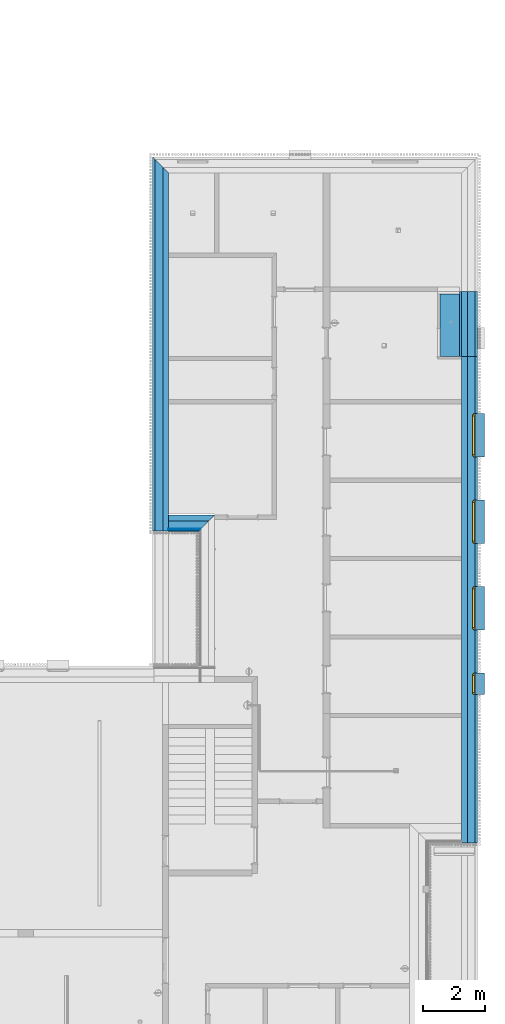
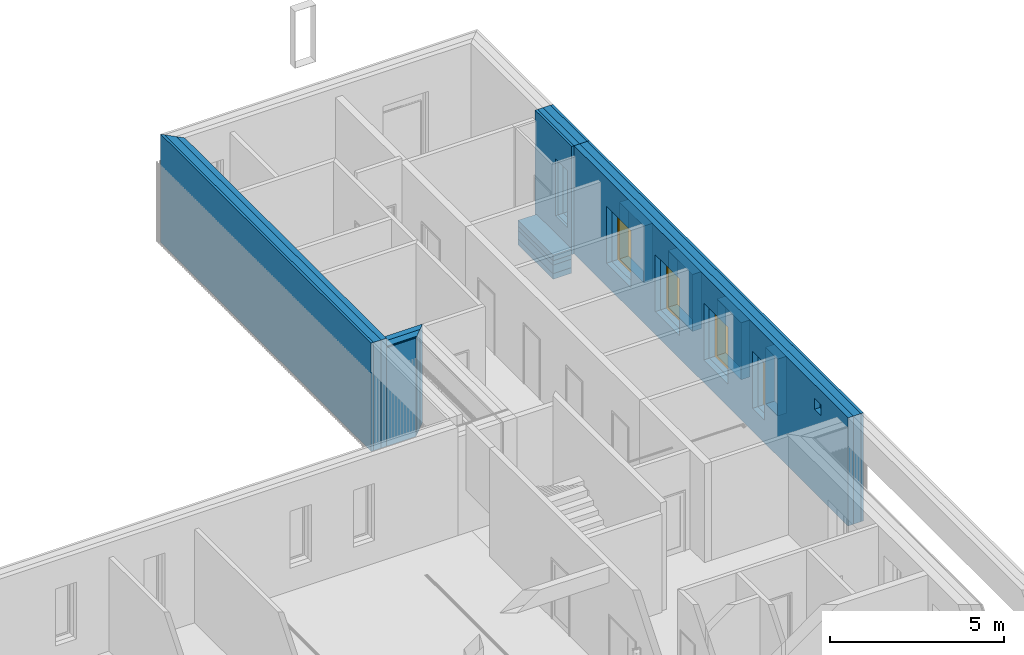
# One storey, part 34 of 112: 18 building element parts, 4 discrete accessories, 4 windows, 6 openings, 5 elements without a shape of their own.
"""IFC2X3 building model written with IfcOpenShell, lengths in millimetres."""

from ifc_helpers import new_model, entity, si_unit, converted_unit, derived_unit, money_unit, direction, frame, origin_with_axes, origin_2d_with_axis, place, context, subcontext, project, spatial, polyline, rectangle, outline, extrude, open_shell, faceted_brep, surface_model, source, transform, mapped, material, type_object, element, fill, aggregate, save


model = new_model("IFC2X3")

# Units and contexts
model_context = context("Model", 3, precision=0.01, world=origin_with_axes(), true_north=direction((0.0, 1.0)))
body_context = subcontext(model_context, "Body", "Model", "MODEL_VIEW")
ifc_project = project(units=[si_unit("LENGTHUNIT", "METRE", prefix="MILLI"), si_unit("AREAUNIT", "SQUARE_METRE"), si_unit("VOLUMEUNIT", "CUBIC_METRE"), converted_unit("PLANEANGLEUNIT", "DEGREE", entity("IfcPlaneAngleMeasure", 0.0174532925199), si_unit("PLANEANGLEUNIT", "RADIAN"), dimensions=[0, 0, 0, 0, 0, 0, 0]), si_unit("SOLIDANGLEUNIT", "STERADIAN"), money_unit("EUR"), converted_unit("TIMEUNIT", "Year", entity("IfcTimeMeasure", 31556926.0), si_unit("TIMEUNIT", "SECOND"), dimensions=[0, 0, 1, 0, 0, 0, 0]), si_unit("MASSUNIT", "GRAM", prefix="KILO"), si_unit("THERMODYNAMICTEMPERATUREUNIT", "DEGREE_CELSIUS"), si_unit("LUMINOUSINTENSITYUNIT", "LUMEN"), si_unit("ENERGYUNIT", "JOULE", prefix="MEGA"), derived_unit("THERMALCONDUCTANCEUNIT", [(si_unit("POWERUNIT", "WATT"), 1), (si_unit("LENGTHUNIT", "METRE"), -1), (si_unit("THERMODYNAMICTEMPERATUREUNIT", "KELVIN"), -1)]), derived_unit("SPECIFICHEATCAPACITYUNIT", [(si_unit("ENERGYUNIT", "JOULE"), 1), (si_unit("MASSUNIT", "GRAM", prefix="KILO"), -1), (si_unit("THERMODYNAMICTEMPERATUREUNIT", "KELVIN"), -1)]), derived_unit("MASSDENSITYUNIT", [(si_unit("MASSUNIT", "GRAM", prefix="KILO"), 1), (si_unit("VOLUMEUNIT", "CUBIC_METRE"), -1)])], contexts=[model_context])

# Site, building, storey
site_placement = place(None, origin_with_axes())
site = spatial("IfcSite", under=ifc_project, at=site_placement, Name="Politse- ja Piirivalveameti ning Päästeameti ühishoone", CompositionType="ELEMENT")
building_placement = place(site_placement, origin_with_axes())
building = spatial("IfcBuilding", under=site, at=building_placement, Name="Politse- ja Piirivalveameti ning Päästeameti ühishoone", CompositionType="ELEMENT")
storey_placement = place(building_placement, origin_with_axes())
storey = spatial("IfcBuildingStorey", under=building, at=storey_placement, Name="Esimene korrus", CompositionType="ELEMENT", Elevation=0.0)

# Window
window_style_1 = type_object("IfcWindowStyle", Name="Window 23", ConstructionType="NOTDEFINED", OperationType="SINGLE_PANEL", ParameterTakesPrecedence=False, Sizeable=False)
shared_shape_1 = source(origin_with_axes(), body_context, "Body", "SurfaceModel", [
    faceted_brep([(675.0, 0.0, 1950.0), (675.0, -25.0, 1950.0), (650.0, -25.0, 1950.0), (650.0, -50.0, 1950.0), (700.0, -50.0, 1950.0), (700.0, 0.0, 1950.0), (675.0, 0.0, 50.0), (675.0, -25.0, 50.0), (650.0, -25.0, 50.0), (650.0, -50.0, 50.0), (700.0, -50.0, 50.0), (700.0, 0.0, 50.0)], [[[0, 1, 2, 3, 4, 5]], [[1, 0, 6, 7]], [[8, 2, 1, 7]], [[2, 8, 9, 3]], [[4, 3, 9, 10]], [[5, 4, 10, 11]], [[6, 0, 5, 11]], [[7, 6, 11, 10, 9, 8]]]),
    faceted_brep([(-650.0, -25.0, 1950.0), (-675.0, -25.0, 1950.0), (-675.0, 0.0, 1950.0), (-700.0, 0.0, 1950.0), (-700.0, -50.0, 1950.0), (-650.0, -50.0, 1950.0), (-650.0, -25.0, 50.0), (-675.0, -25.0, 50.0), (-675.0, 0.0, 50.0), (-700.0, 0.0, 50.0), (-700.0, -50.0, 50.0), (-650.0, -50.0, 50.0)], [[[0, 1, 2, 3, 4, 5]], [[1, 0, 6, 7]], [[8, 2, 1, 7]], [[2, 8, 9, 3]], [[9, 10, 4, 3]], [[10, 11, 5, 4]], [[6, 0, 5, 11]], [[7, 6, 11, 10, 9, 8]]]),
    faceted_brep([(-650.0, -25.0, 50.0), (-675.0, -25.0, 50.0), (-675.0, 0.0, 50.0), (-700.0, 0.0, 50.0), (-700.0, -50.0, 50.0), (-650.0, -50.0, 50.0), (650.0, -25.0, 50.0), (675.0, -25.0, 50.0), (675.0, -25.0, 25.0), (-675.0, -25.0, 25.0), (-675.0, 0.0, 25.0), (675.0, 0.0, 25.0), (675.0, 0.0, 50.0), (700.0, 0.0, 50.0), (700.0, 0.0, 0.0), (-700.0, 0.0, 0.0), (-700.0, -50.0, 0.0), (700.0, -50.0, 50.0), (650.0, -50.0, 50.0), (700.0, -50.0, 0.0)], [[[0, 1, 2, 3, 4, 5]], [[1, 0, 6, 7, 8, 9]], [[10, 2, 1, 9]], [[11, 12, 13, 14, 15, 3, 2, 10]], [[15, 16, 4, 3]], [[17, 18, 5, 4, 16, 19]], [[6, 0, 5, 18]], [[7, 6, 18, 17, 13, 12]], [[7, 12, 11, 8]], [[11, 10, 9, 8]], [[13, 17, 19, 14]], [[14, 19, 16, 15]]]),
    faceted_brep([(675.0, 0.0, 1950.0), (675.0, 0.0, 1975.0), (-675.0, 0.0, 1975.0), (-675.0, 0.0, 1950.0), (-700.0, 0.0, 1950.0), (-700.0, 0.0, 2000.0), (700.0, 0.0, 2000.0), (700.0, 0.0, 1950.0), (675.0, -25.0, 1950.0), (675.0, -25.0, 1975.0), (-675.0, -25.0, 1975.0), (-675.0, -25.0, 1950.0), (-650.0, -25.0, 1950.0), (-650.0, -50.0, 1950.0), (-700.0, -50.0, 1950.0), (-700.0, -50.0, 2000.0), (700.0, -50.0, 2000.0), (700.0, -50.0, 1950.0), (650.0, -50.0, 1950.0), (650.0, -25.0, 1950.0)], [[[0, 1, 2, 3, 4, 5, 6, 7]], [[1, 0, 8, 9]], [[2, 1, 9, 10]], [[3, 2, 10, 11]], [[11, 12, 13, 14, 4, 3]], [[4, 14, 15, 5]], [[5, 15, 16, 6]], [[6, 16, 17, 7]], [[8, 0, 7, 17, 18, 19]], [[12, 11, 10, 9, 8, 19]], [[12, 19, 18, 13]], [[14, 13, 18, 17, 16, 15]]]),
    faceted_brep([(625.0, -25.0, 1925.0), (675.0, -25.0, 1925.0), (675.0, 25.0, 1925.0), (625.0, 25.0, 1925.0), (625.0, -25.0, 75.0), (675.0, -25.0, 75.0), (675.0, 25.0, 75.0), (625.0, 25.0, 75.0)], [[[0, 1, 2, 3]], [[0, 4, 5, 1]], [[1, 5, 6, 2]], [[3, 2, 6, 7]], [[4, 0, 3, 7]], [[5, 4, 7, 6]]]),
    faceted_brep([(-625.0, -25.0, 75.0), (-675.0, -25.0, 75.0), (-675.0, 25.0, 75.0), (-625.0, 25.0, 75.0), (-625.0, -25.0, 1925.0), (-675.0, -25.0, 1925.0), (-675.0, 25.0, 1925.0), (-625.0, 25.0, 1925.0)], [[[0, 1, 2, 3]], [[0, 4, 5, 1]], [[1, 5, 6, 2]], [[3, 2, 6, 7]], [[4, 0, 3, 7]], [[5, 4, 7, 6]]]),
    faceted_brep([(-675.0, -25.0, 25.0), (-675.0, -25.0, 75.0), (-675.0, 25.0, 75.0), (-675.0, 25.0, 25.0), (675.0, -25.0, 25.0), (675.0, -25.0, 75.0), (625.0, -25.0, 75.0), (-625.0, -25.0, 75.0), (-625.0, 25.0, 75.0), (625.0, 25.0, 75.0), (675.0, 25.0, 75.0), (675.0, 25.0, 25.0)], [[[0, 1, 2, 3]], [[0, 4, 5, 6, 7, 1]], [[1, 7, 8, 2]], [[3, 2, 8, 9, 10, 11]], [[4, 0, 3, 11]], [[5, 4, 11, 10]], [[6, 5, 10, 9]], [[7, 6, 9, 8]]]),
    faceted_brep([(675.0, -25.0, 1975.0), (675.0, -25.0, 1925.0), (675.0, 25.0, 1925.0), (675.0, 25.0, 1975.0), (-675.0, -25.0, 1975.0), (-675.0, -25.0, 1925.0), (-625.0, -25.0, 1925.0), (625.0, -25.0, 1925.0), (625.0, 25.0, 1925.0), (-625.0, 25.0, 1925.0), (-675.0, 25.0, 1925.0), (-675.0, 25.0, 1975.0)], [[[0, 1, 2, 3]], [[0, 4, 5, 6, 7, 1]], [[1, 7, 8, 2]], [[3, 2, 8, 9, 10, 11]], [[4, 0, 3, 11]], [[5, 4, 11, 10]], [[6, 5, 10, 9]], [[7, 6, 9, 8]]]),
    surface_model("IfcShellBasedSurfaceModel", [(625.0, -10.0, 75.0), (625.0, -10.0, 1925.0), (-625.0, -10.0, 1925.0), (-625.0, -10.0, 75.0)], [open_shell([[[0, 1, 2, 3]]])]),
    surface_model("IfcShellBasedSurfaceModel", [(625.0, 10.0, 75.0), (-625.0, 10.0, 75.0), (-625.0, 10.0, 1925.0), (625.0, 10.0, 1925.0)], [open_shell([[[0, 1, 2, 3]]])]),
])
wall_4_placement = place(storey_placement, frame((69660.5664257, 31560.1986087, 0.0), z_axis=(0.0, 0.0, 1.0), x_axis=(0.0, -1.0, 0.0)))
opening_2_placement = place(wall_4_placement, frame((8160.12836457, 0.0, 800.0), z_axis=(0.0, 0.0, 1.0), x_axis=(1.0, 0.0, 0.0)))
window_1_placement = place(opening_2_placement, frame((700.0, 0.0, 0.0), z_axis=(0.0, 0.0, 1.0), x_axis=(-1.0, 0.0, 0.0)))
window_1 = element("IfcWindow", 1, at=window_1_placement, inside=storey, type_object=window_style_1, Name="A-02", ObjectType="WINDOW", OverallHeight=2000.0, OverallWidth=1400.0, context=body_context, shape_type="MappedRepresentation", body=[
    mapped(shared_shape_1, transform((700.0, -380.0, 0.0))),
])

opening_3_placement = place(wall_4_placement, frame((5360.12836457, 0.0, 800.0), z_axis=(0.0, 0.0, 1.0), x_axis=(1.0, 0.0, 0.0)))
window_2_placement = place(opening_3_placement, frame((700.0, 0.0, 0.0), z_axis=(0.0, 0.0, 1.0), x_axis=(-1.0, 0.0, 0.0)))
window_2 = element("IfcWindow", 2, at=window_2_placement, inside=storey, type_object=window_style_1, Name="A-02", ObjectType="WINDOW", OverallHeight=2000.0, OverallWidth=1400.0, context=body_context, shape_type="MappedRepresentation", body=[
    mapped(shared_shape_1, transform((700.0, -380.0, 0.0))),
])

opening_5_placement = place(wall_4_placement, frame((2560.12836457, 0.0, 800.0), z_axis=(0.0, 0.0, 1.0), x_axis=(1.0, 0.0, 0.0)))
window_3_placement = place(opening_5_placement, frame((700.0, 0.0, 0.0), z_axis=(0.0, 0.0, 1.0), x_axis=(-1.0, 0.0, 0.0)))
window_3 = element("IfcWindow", 3, at=window_3_placement, inside=storey, type_object=window_style_1, Name="A-02", ObjectType="WINDOW", OverallHeight=2000.0, OverallWidth=1400.0, context=body_context, shape_type="MappedRepresentation", body=[
    mapped(shared_shape_1, transform((700.0, -380.0, 0.0))),
])

window_style_2 = type_object("IfcWindowStyle", Name="Window 23", ConstructionType="NOTDEFINED", OperationType="SINGLE_PANEL", ParameterTakesPrecedence=False, Sizeable=False)
shared_shape_2 = source(origin_with_axes(), body_context, "Body", "SurfaceModel", [
    faceted_brep([(325.0, 0.0, 1950.0), (325.0, -25.0, 1950.0), (300.0, -25.0, 1950.0), (300.0, -50.0, 1950.0), (350.0, -50.0, 1950.0), (350.0, 0.0, 1950.0), (325.0, 0.0, 50.0), (325.0, -25.0, 50.0), (300.0, -25.0, 50.0), (300.0, -50.0, 50.0), (350.0, -50.0, 50.0), (350.0, 0.0, 50.0)], [[[0, 1, 2, 3, 4, 5]], [[1, 0, 6, 7]], [[8, 2, 1, 7]], [[2, 8, 9, 3]], [[4, 3, 9, 10]], [[5, 4, 10, 11]], [[6, 0, 5, 11]], [[7, 6, 11, 10, 9, 8]]]),
    faceted_brep([(-300.0, -25.0, 1950.0), (-325.0, -25.0, 1950.0), (-325.0, 0.0, 1950.0), (-350.0, 0.0, 1950.0), (-350.0, -50.0, 1950.0), (-300.0, -50.0, 1950.0), (-300.0, -25.0, 50.0), (-325.0, -25.0, 50.0), (-325.0, 0.0, 50.0), (-350.0, 0.0, 50.0), (-350.0, -50.0, 50.0), (-300.0, -50.0, 50.0)], [[[0, 1, 2, 3, 4, 5]], [[1, 0, 6, 7]], [[8, 2, 1, 7]], [[2, 8, 9, 3]], [[9, 10, 4, 3]], [[10, 11, 5, 4]], [[6, 0, 5, 11]], [[7, 6, 11, 10, 9, 8]]]),
    faceted_brep([(-300.0, -25.0, 50.0), (-325.0, -25.0, 50.0), (-325.0, 0.0, 50.0), (-350.0, 0.0, 50.0), (-350.0, -50.0, 50.0), (-300.0, -50.0, 50.0), (300.0, -25.0, 50.0), (325.0, -25.0, 50.0), (325.0, -25.0, 25.0), (-325.0, -25.0, 25.0), (-325.0, 0.0, 25.0), (325.0, 0.0, 25.0), (325.0, 0.0, 50.0), (350.0, 0.0, 50.0), (350.0, 0.0, 0.0), (-350.0, 0.0, 0.0), (-350.0, -50.0, 0.0), (350.0, -50.0, 50.0), (300.0, -50.0, 50.0), (350.0, -50.0, 0.0)], [[[0, 1, 2, 3, 4, 5]], [[1, 0, 6, 7, 8, 9]], [[10, 2, 1, 9]], [[11, 12, 13, 14, 15, 3, 2, 10]], [[15, 16, 4, 3]], [[17, 18, 5, 4, 16, 19]], [[6, 0, 5, 18]], [[7, 6, 18, 17, 13, 12]], [[7, 12, 11, 8]], [[11, 10, 9, 8]], [[13, 17, 19, 14]], [[14, 19, 16, 15]]]),
    faceted_brep([(325.0, 0.0, 1950.0), (325.0, 0.0, 1975.0), (-325.0, 0.0, 1975.0), (-325.0, 0.0, 1950.0), (-350.0, 0.0, 1950.0), (-350.0, 0.0, 2000.0), (350.0, 0.0, 2000.0), (350.0, 0.0, 1950.0), (325.0, -25.0, 1950.0), (325.0, -25.0, 1975.0), (-325.0, -25.0, 1975.0), (-325.0, -25.0, 1950.0), (-300.0, -25.0, 1950.0), (-300.0, -50.0, 1950.0), (-350.0, -50.0, 1950.0), (-350.0, -50.0, 2000.0), (350.0, -50.0, 2000.0), (350.0, -50.0, 1950.0), (300.0, -50.0, 1950.0), (300.0, -25.0, 1950.0)], [[[0, 1, 2, 3, 4, 5, 6, 7]], [[1, 0, 8, 9]], [[2, 1, 9, 10]], [[3, 2, 10, 11]], [[11, 12, 13, 14, 4, 3]], [[4, 14, 15, 5]], [[5, 15, 16, 6]], [[6, 16, 17, 7]], [[8, 0, 7, 17, 18, 19]], [[12, 11, 10, 9, 8, 19]], [[12, 19, 18, 13]], [[14, 13, 18, 17, 16, 15]]]),
    faceted_brep([(275.0, -25.0, 1925.0), (325.0, -25.0, 1925.0), (325.0, 25.0, 1925.0), (275.0, 25.0, 1925.0), (275.0, -25.0, 75.0), (325.0, -25.0, 75.0), (325.0, 25.0, 75.0), (275.0, 25.0, 75.0)], [[[0, 1, 2, 3]], [[0, 4, 5, 1]], [[1, 5, 6, 2]], [[3, 2, 6, 7]], [[4, 0, 3, 7]], [[5, 4, 7, 6]]]),
    faceted_brep([(-275.0, -25.0, 75.0), (-325.0, -25.0, 75.0), (-325.0, 25.0, 75.0), (-275.0, 25.0, 75.0), (-275.0, -25.0, 1925.0), (-325.0, -25.0, 1925.0), (-325.0, 25.0, 1925.0), (-275.0, 25.0, 1925.0)], [[[0, 1, 2, 3]], [[0, 4, 5, 1]], [[1, 5, 6, 2]], [[3, 2, 6, 7]], [[4, 0, 3, 7]], [[5, 4, 7, 6]]]),
    faceted_brep([(-325.0, -25.0, 25.0), (-325.0, -25.0, 75.0), (-325.0, 25.0, 75.0), (-325.0, 25.0, 25.0), (325.0, -25.0, 25.0), (325.0, -25.0, 75.0), (275.0, -25.0, 75.0), (-275.0, -25.0, 75.0), (-275.0, 25.0, 75.0), (275.0, 25.0, 75.0), (325.0, 25.0, 75.0), (325.0, 25.0, 25.0)], [[[0, 1, 2, 3]], [[0, 4, 5, 6, 7, 1]], [[1, 7, 8, 2]], [[3, 2, 8, 9, 10, 11]], [[4, 0, 3, 11]], [[5, 4, 11, 10]], [[6, 5, 10, 9]], [[7, 6, 9, 8]]]),
    faceted_brep([(325.0, -25.0, 1975.0), (325.0, -25.0, 1925.0), (325.0, 25.0, 1925.0), (325.0, 25.0, 1975.0), (-325.0, -25.0, 1975.0), (-325.0, -25.0, 1925.0), (-275.0, -25.0, 1925.0), (275.0, -25.0, 1925.0), (275.0, 25.0, 1925.0), (-275.0, 25.0, 1925.0), (-325.0, 25.0, 1925.0), (-325.0, 25.0, 1975.0)], [[[0, 1, 2, 3]], [[0, 4, 5, 6, 7, 1]], [[1, 7, 8, 2]], [[3, 2, 8, 9, 10, 11]], [[4, 0, 3, 11]], [[5, 4, 11, 10]], [[6, 5, 10, 9]], [[7, 6, 9, 8]]]),
    surface_model("IfcShellBasedSurfaceModel", [(275.0, -10.0, 75.0), (275.0, -10.0, 1925.0), (-275.0, -10.0, 1925.0), (-275.0, -10.0, 75.0)], [open_shell([[[0, 1, 2, 3]]])]),
    surface_model("IfcShellBasedSurfaceModel", [(275.0, 10.0, 75.0), (-275.0, 10.0, 75.0), (-275.0, 10.0, 1925.0), (275.0, 10.0, 1925.0)], [open_shell([[[0, 1, 2, 3]]])]),
])
opening_4_placement = place(wall_4_placement, frame((10610.5152731, 0.0, 800.0), z_axis=(0.0, 0.0, 1.0), x_axis=(1.0, 0.0, 0.0)))
window_4_placement = place(opening_4_placement, frame((350.0, 0.0, 0.0), z_axis=(0.0, 0.0, 1.0), x_axis=(-1.0, 0.0, 0.0)))
window_4 = element("IfcWindow", 4, at=window_4_placement, inside=storey, type_object=window_style_2, Name="A-01", ObjectType="WINDOW", OverallHeight=2000.0, OverallWidth=700.0, context=body_context, shape_type="MappedRepresentation", body=[
    mapped(shared_shape_2, transform((350.0, -380.0, 0.0))),
])

# Discrete accessories
ifc_material_1 = material(Name="SV-01_Krohv - Kips")
discrete_accessory_type = type_object("IfcDiscreteAccessoryType", Name="Architrave 01 23")
shared_shape_3 = source(origin_with_axes(), body_context, "Body", "Brep", [
    faceted_brep([(-350.0, 0.0, -10.0), (350.0, 0.0, -10.0), (350.0, -300.182356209, -10.0), (-350.0, -300.182356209, -10.0), (-340.0, 0.0, 0.0), (340.0, 0.0, 0.0), (340.0, -300.182356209, 0.0), (-340.0, -300.182356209, 0.0)], [[[0, 1, 2, 3]], [[0, 4, 5, 1]], [[1, 5, 6, 2]], [[3, 2, 6, 7]], [[4, 0, 3, 7]], [[5, 4, 7, 6]]]),
    faceted_brep([(350.0, 0.0, -10.0), (350.0, 0.0, 1990.0), (350.0, -300.182356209, 1990.0), (350.0, -300.182356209, -10.0), (340.0, 0.0, 0.0), (340.0, 0.0, 1980.0), (340.0, -300.182356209, 1980.0), (340.0, -300.182356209, 0.0)], [[[0, 1, 2, 3]], [[0, 4, 5, 1]], [[1, 5, 6, 2]], [[3, 2, 6, 7]], [[4, 0, 3, 7]], [[5, 4, 7, 6]]]),
    faceted_brep([(350.0, 0.0, 1990.0), (-350.0, 0.0, 1990.0), (-350.0, -300.182356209, 1990.0), (350.0, -300.182356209, 1990.0), (340.0, 0.0, 1980.0), (-340.0, 0.0, 1980.0), (-340.0, -300.182356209, 1980.0), (340.0, -300.182356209, 1980.0)], [[[0, 1, 2, 3]], [[0, 4, 5, 1]], [[1, 5, 6, 2]], [[3, 2, 6, 7]], [[4, 0, 3, 7]], [[5, 4, 7, 6]]]),
    faceted_brep([(-350.0, 0.0, 1990.0), (-350.0, 0.0, -10.0), (-350.0, -300.182356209, -10.0), (-350.0, -300.182356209, 1990.0), (-340.0, 0.0, 1980.0), (-340.0, 0.0, 0.0), (-340.0, -300.182356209, 0.0), (-340.0, -300.182356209, 1980.0)], [[[0, 1, 2, 3]], [[0, 4, 5, 1]], [[1, 5, 6, 2]], [[3, 2, 6, 7]], [[4, 0, 3, 7]], [[5, 4, 7, 6]]]),
])
discrete_accessory_placement = place(storey_placement, frame((70090.5664257, 20949.6833356, 810.0), z_axis=(0.0, 0.0, 1.0), x_axis=(0.0, 1.0, 0.0)))
element("IfcDiscreteAccessory", 5, at=discrete_accessory_placement, inside=storey, type_object=discrete_accessory_type, material=ifc_material_1, Name="AKNARAAM 01", context=body_context, shape_type="MappedRepresentation", body=[
    mapped(shared_shape_3, transform((0.0, 0.0, 0.0))),
])
shared_shape_4 = source(origin_with_axes(), body_context, "Body", "Brep", [
    faceted_brep([(-700.0, 0.0, -10.0), (700.0, 0.0, -10.0), (700.0, -300.182356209, -10.0), (-700.0, -300.182356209, -10.0), (-690.0, 0.0, 0.0), (690.0, 0.0, 0.0), (690.0, -300.182356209, 0.0), (-690.0, -300.182356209, 0.0)], [[[0, 1, 2, 3]], [[0, 4, 5, 1]], [[1, 5, 6, 2]], [[3, 2, 6, 7]], [[4, 0, 3, 7]], [[5, 4, 7, 6]]]),
    faceted_brep([(700.0, 0.0, -10.0), (700.0, 0.0, 1990.0), (700.0, -300.182356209, 1990.0), (700.0, -300.182356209, -10.0), (690.0, 0.0, 0.0), (690.0, 0.0, 1980.0), (690.0, -300.182356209, 1980.0), (690.0, -300.182356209, 0.0)], [[[0, 1, 2, 3]], [[0, 4, 5, 1]], [[1, 5, 6, 2]], [[3, 2, 6, 7]], [[4, 0, 3, 7]], [[5, 4, 7, 6]]]),
    faceted_brep([(700.0, 0.0, 1990.0), (-700.0, 0.0, 1990.0), (-700.0, -300.182356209, 1990.0), (700.0, -300.182356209, 1990.0), (690.0, 0.0, 1980.0), (-690.0, 0.0, 1980.0), (-690.0, -300.182356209, 1980.0), (690.0, -300.182356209, 1980.0)], [[[0, 1, 2, 3]], [[0, 4, 5, 1]], [[1, 5, 6, 2]], [[3, 2, 6, 7]], [[4, 0, 3, 7]], [[5, 4, 7, 6]]]),
    faceted_brep([(-700.0, 0.0, 1990.0), (-700.0, 0.0, -10.0), (-700.0, -300.182356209, -10.0), (-700.0, -300.182356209, 1990.0), (-690.0, 0.0, 1980.0), (-690.0, 0.0, 0.0), (-690.0, -300.182356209, 0.0), (-690.0, -300.182356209, 1980.0)], [[[0, 1, 2, 3]], [[0, 4, 5, 1]], [[1, 5, 6, 2]], [[3, 2, 6, 7]], [[4, 0, 3, 7]], [[5, 4, 7, 6]]]),
])
for number, where, z_axis, x_axis, name in (
    (6, (70090.5664257, 23400.0702441, 810.0), (0.0, 0.0, 1.0), (0.0, 1.0, 0.0), "AKNARAAM 01"),
    (7, (70090.5664257, 26200.0702441, 810.0), (0.0, 0.0, 1.0), (0.0, 1.0, 0.0), "AKNARAAM 01"),
    (8, (70090.5664257, 29000.0702441, 810.0), (0.0, 0.0, 1.0), (0.0, 1.0, 0.0), "AKNARAAM 01"),
):
    element("IfcDiscreteAccessory", number, at=place(storey_placement, frame(where, z_axis=z_axis, x_axis=x_axis)), inside=storey, type_object=discrete_accessory_type, material=ifc_material_1, Name=name, context=body_context, shape_type="MappedRepresentation", body=[
        mapped(shared_shape_4, transform((0.0, 0.0, 0.0))),
    ])

# Wall, building element parts
wall_type_1 = type_object("IfcWallType", Name="VS-01_välissein 510", PredefinedType="NOTDEFINED")
wall_1_placement = place(storey_placement, frame((60160.5519118, 37499.9521318, 0.0), z_axis=(0.0, 0.0, 1.0), x_axis=(0.0, -1.0, 0.0)))
wall_1 = element("IfcWall", 9, at=wall_1_placement, inside=storey, type_object=wall_type_1, Name="VS-01")
ifc_material_2 = material(Name="KON-04_Betoon - Konstuktsioon")
building_element_part_1_placement = place(wall_1_placement, origin_with_axes())
building_element_part_1 = element("IfcBuildingElementPart", 10, at=building_element_part_1_placement, material=ifc_material_2, Name="KON-04_Betoon - Konstuktsioon", context=body_context, shape_type="SweptSolid", body=[
    extrude(outline(polyline([(-180.0, -180.0), (11600.0000486, -180.0), (11600.0000486, 0.0), (0.0, 0.0), (-180.0, -180.0)])), origin_with_axes(), (0.0, 0.0, 1.0), 3800.0),
])
ifc_material_3 = material(Name="SOJ-06_Soojustus - Plastik Kõva")
building_element_part_2_placement = place(wall_1_placement, origin_with_axes())
building_element_part_2 = element("IfcBuildingElementPart", 11, at=building_element_part_2_placement, material=ifc_material_3, Name="SOJ-06_Soojustus - Plastik Kõva", context=body_context, shape_type="SweptSolid", body=[
    extrude(outline(polyline([(-430.0, -430.0), (11600.0000486, -430.0), (11600.0000486, -180.0), (-180.0, -180.0), (-430.0, -430.0)])), origin_with_axes(), (0.0, 0.0, 1.0), 3800.0),
])
building_element_part_3_placement = place(wall_1_placement, origin_with_axes())
building_element_part_3 = element("IfcBuildingElementPart", 12, at=building_element_part_3_placement, material=ifc_material_2, Name="KON-04_Betoon - Konstuktsioon", context=body_context, shape_type="SweptSolid", body=[
    extrude(outline(polyline([(-510.0, -510.0), (11600.0000486, -510.0), (11600.0000486, -430.0), (-430.0, -430.0), (-510.0, -510.0)])), origin_with_axes(), (0.0, 0.0, 1.0), 3800.0),
])
aggregate(wall_1, [building_element_part_1, building_element_part_2, building_element_part_3])

wall_type_2 = type_object("IfcWallType", Name="VS-04_välissein paneel200 + fassaadikassett 520", PredefinedType="NOTDEFINED")
wall_2_placement = place(storey_placement, frame((60160.5519118, 26419.9520832, 0.0), z_axis=(0.0, 0.0, 1.0), x_axis=(1.0, 0.0, 0.0)))
wall_2 = element("IfcWall", 13, at=wall_2_placement, inside=storey, type_object=wall_type_2, Name="VS-04")
building_element_part_4_placement = place(wall_2_placement, origin_with_axes())
building_element_part_4 = element("IfcBuildingElementPart", 14, at=building_element_part_4_placement, material=ifc_material_2, Name="KON-04_Betoon - Konstuktsioon", context=body_context, shape_type="SweptSolid", body=[
    extrude(outline(polyline([(0.0, -200.0), (1300.0, -200.0), (1500.0, 0.0), (0.0, 0.0), (0.0, -200.0)])), origin_with_axes(), (0.0, 0.0, 1.0), 3460.0),
])
building_element_part_5_placement = place(wall_2_placement, origin_with_axes())
building_element_part_5 = element("IfcBuildingElementPart", 15, at=building_element_part_5_placement, material=ifc_material_3, Name="SOJ-06_Soojustus - Plastik Kõva", context=body_context, shape_type="SweptSolid", body=[
    extrude(outline(polyline([(0.0, -450.0), (1050.0, -450.0), (1300.0, -200.0), (0.0, -200.0), (0.0, -450.0)])), origin_with_axes(), (0.0, 0.0, 1.0), 3460.0),
])
ifc_material_4 = material(Name="Õhkvahe - Raam")
building_element_part_6_placement = place(wall_2_placement, origin_with_axes())
building_element_part_6 = element("IfcBuildingElementPart", 16, at=building_element_part_6_placement, material=ifc_material_4, Name="Õhkvahe - Raam", context=body_context, shape_type="SweptSolid", body=[
    extrude(outline(polyline([(0.0, -480.0), (1020.0, -480.0), (1050.0, -450.0), (0.0, -450.0), (0.0, -480.0)])), origin_with_axes(), (0.0, 0.0, 1.0), 3460.0),
])
ifc_material_5 = material(Name="GENEERILINE - VÄLINE VOODER")
building_element_part_7_placement = place(wall_2_placement, origin_with_axes())
building_element_part_7 = element("IfcBuildingElementPart", 17, at=building_element_part_7_placement, material=ifc_material_5, Name="GENEERILINE - VÄLINE VOODER", context=body_context, shape_type="SweptSolid", body=[
    extrude(outline(polyline([(0.0, -520.0), (980.0, -520.0), (1020.0, -480.0), (0.0, -480.0), (0.0, -520.0)])), origin_with_axes(), (0.0, 0.0, 1.0), 3460.0),
])
aggregate(wall_2, [building_element_part_4, building_element_part_5, building_element_part_6, building_element_part_7])

# Wall, opening, building element parts
wall_type_3 = type_object("IfcWallType", Name="VS-13_välissein õhuvõtt 590", PredefinedType="NOTDEFINED")
wall_3_placement = place(storey_placement, frame((69660.5664204, 33660.0702441, 0.0), z_axis=(0.0, 0.0, 1.0), x_axis=(0.0, -1.0, 0.0)))
wall_3 = element("IfcWall", 18, at=wall_3_placement, inside=storey, type_object=wall_type_3, Name="VS-13")
opening_1_placement = place(wall_3_placement, frame((1510.0, 0.0, 800.0), z_axis=(0.0, 0.0, 1.0), x_axis=(1.0, 0.0, 0.0)))
element("IfcOpeningElement", 19, at=opening_1_placement, cuts=wall_3, Name="VR-01", context=body_context, shape_type="SweptSolid", body=[
    extrude(rectangle(XDim=700.0, YDim=2000.0, at=origin_2d_with_axis()), frame((0.0, 100.0, 1000.0), z_axis=(0.0, 1.0, 0.0), x_axis=(1.0, 0.0, 0.0)), (0.0, 0.0, 1.0), 1000.0),
    extrude(rectangle(XDim=700.0, YDim=2000.0, at=origin_2d_with_axis()), frame((0.0, 100.0, 1000.0), z_axis=(0.0, -1.0, 0.0), x_axis=(1.0, 0.0, 0.0)), (0.0, 0.0, 1.0), 770.0),
])
ifc_material_6 = material(Name="SOJ-02_Soojustus - Fiiber Kõva")
building_element_part_8_placement = place(wall_3_placement, origin_with_axes())
building_element_part_8 = element("IfcBuildingElementPart", 20, at=building_element_part_8_placement, material=ifc_material_6, Name="SOJ-02_Soojustus - Fiiber Kõva", context=body_context, shape_type="SweptSolid", body=[
    extrude(outline(polyline([(0.0, -80.0), (2099.87163543, -80.0), (2099.87163543, 0.0), (0.0, 0.0), (0.0, -80.0)])), origin_with_axes(), (0.0, 0.0, 1.0), 3800.0),
])
building_element_part_9_placement = place(wall_3_placement, origin_with_axes())
building_element_part_9 = element("IfcBuildingElementPart", 21, at=building_element_part_9_placement, material=ifc_material_2, Name="KON-04_Betoon - Konstuktsioon", context=body_context, shape_type="SweptSolid", body=[
    extrude(outline(polyline([(0.0, 0.0), (2099.87163543, 0.0), (2099.87163543, 180.0), (0.0, 180.0), (0.0, 0.0)])), origin_with_axes(), (0.0, 0.0, 1.0), 3800.0),
])
building_element_part_10_placement = place(wall_3_placement, origin_with_axes())
building_element_part_10 = element("IfcBuildingElementPart", 22, at=building_element_part_10_placement, material=ifc_material_3, Name="SOJ-06_Soojustus - Plastik Kõva", context=body_context, shape_type="SweptSolid", body=[
    extrude(outline(polyline([(0.0, 180.0), (2099.87163543, 180.0), (2099.87163543, 430.0), (0.0, 430.0), (0.0, 180.0)])), origin_with_axes(), (0.0, 0.0, 1.0), 3800.0),
])
building_element_part_11_placement = place(wall_3_placement, origin_with_axes())
building_element_part_11 = element("IfcBuildingElementPart", 23, at=building_element_part_11_placement, material=ifc_material_2, Name="KON-04_Betoon - Konstuktsioon", context=body_context, shape_type="SweptSolid", body=[
    extrude(outline(polyline([(0.0, 430.0), (2099.87163543, 430.0), (2099.87163543, 510.0), (0.0, 510.0), (0.0, 430.0)])), origin_with_axes(), (0.0, 0.0, 1.0), 3800.0),
])
aggregate(wall_3, [building_element_part_8, building_element_part_9, building_element_part_10, building_element_part_11])

# Wall, opening
wall_4 = element("IfcWall", 24, at=wall_4_placement, inside=storey, type_object=wall_type_1, Name="VS-01")
opening_2 = element("IfcOpeningElement", 25, at=opening_2_placement, cuts=wall_4, Name="A-02", context=body_context, shape_type="SweptSolid", body=[
    extrude(rectangle(XDim=1400.0, YDim=2000.0, at=origin_2d_with_axis()), frame((0.0, 430.0, 1000.0), z_axis=(0.0, -1.0, 0.0), x_axis=(1.0, 0.0, 0.0)), (0.0, 0.0, 1.0), 940.0),
    extrude(rectangle(XDim=1400.0, YDim=2000.0, at=origin_2d_with_axis()), frame((0.0, 430.0, 1000.0), z_axis=(0.0, 1.0, 0.0), x_axis=(1.0, 0.0, 0.0)), (0.0, 0.0, 1.0), 590.0),
])

fill(opening_2, window_1)

# Opening
opening_3 = element("IfcOpeningElement", 26, at=opening_3_placement, cuts=wall_4, Name="A-02", context=body_context, shape_type="SweptSolid", body=[
    extrude(rectangle(XDim=1400.0, YDim=2000.0, at=origin_2d_with_axis()), frame((0.0, 430.0, 1000.0), z_axis=(0.0, -1.0, 0.0), x_axis=(1.0, 0.0, 0.0)), (0.0, 0.0, 1.0), 940.0),
    extrude(rectangle(XDim=1400.0, YDim=2000.0, at=origin_2d_with_axis()), frame((0.0, 430.0, 1000.0), z_axis=(0.0, 1.0, 0.0), x_axis=(1.0, 0.0, 0.0)), (0.0, 0.0, 1.0), 590.0),
])

fill(opening_3, window_2)

opening_4 = element("IfcOpeningElement", 27, at=opening_4_placement, cuts=wall_4, Name="A-01", context=body_context, shape_type="SweptSolid", body=[
    extrude(rectangle(XDim=700.0, YDim=2000.0, at=origin_2d_with_axis()), frame((0.0, 430.0, 1000.0), z_axis=(0.0, -1.0, 0.0), x_axis=(1.0, 0.0, 0.0)), (0.0, 0.0, 1.0), 940.0),
    extrude(rectangle(XDim=700.0, YDim=2000.0, at=origin_2d_with_axis()), frame((0.0, 430.0, 1000.0), z_axis=(0.0, 1.0, 0.0), x_axis=(1.0, 0.0, 0.0)), (0.0, 0.0, 1.0), 590.0),
])

fill(opening_4, window_4)

opening_5 = element("IfcOpeningElement", 28, at=opening_5_placement, cuts=wall_4, Name="A-02", context=body_context, shape_type="SweptSolid", body=[
    extrude(rectangle(XDim=1400.0, YDim=2000.0, at=origin_2d_with_axis()), frame((0.0, 430.0, 1000.0), z_axis=(0.0, -1.0, 0.0), x_axis=(1.0, 0.0, 0.0)), (0.0, 0.0, 1.0), 940.0),
    extrude(rectangle(XDim=1400.0, YDim=2000.0, at=origin_2d_with_axis()), frame((0.0, 430.0, 1000.0), z_axis=(0.0, 1.0, 0.0), x_axis=(1.0, 0.0, 0.0)), (0.0, 0.0, 1.0), 590.0),
])

fill(opening_5, window_3)

opening_6_placement = place(wall_4_placement, frame((14007.3894696, 0.0, 2930.0), z_axis=(0.0, 0.0, 1.0), x_axis=(1.0, 0.0, 0.0)))
element("IfcOpeningElement", 29, at=opening_6_placement, cuts=wall_4, Name="TÜHI AVA", context=body_context, shape_type="SweptSolid", body=[
    extrude(rectangle(XDim=360.0, YDim=380.0, at=origin_2d_with_axis()), frame((0.0, -510.0, 190.0), z_axis=(0.0, 1.0, 0.0), x_axis=(-1.0, 0.0, 0.0)), (0.0, 0.0, 1.0), 1530.0),
])

# Building element part
building_element_part_12_placement = place(wall_4_placement, origin_with_axes())
building_element_part_12 = element("IfcBuildingElementPart", 30, at=building_element_part_12_placement, material=ifc_material_2, Name="KON-04_Betoon - Konstuktsioon", context=body_context, shape_type="SweptSolid", body=[
    extrude(outline(polyline([(0.0, 0.0), (15757.3894696, 0.0), (15757.3894696, 180.0), (0.0, 180.0), (0.0, 0.0)])), origin_with_axes(), (0.0, 0.0, 1.0), 3800.0),
])

building_element_part_13_placement = place(wall_4_placement, origin_with_axes())
building_element_part_13 = element("IfcBuildingElementPart", 31, at=building_element_part_13_placement, material=ifc_material_3, Name="SOJ-06_Soojustus - Plastik Kõva", context=body_context, shape_type="SweptSolid", body=[
    extrude(outline(polyline([(0.0, 180.0), (15757.3894696, 180.0), (15757.3894696, 430.0), (0.0, 430.0), (0.0, 180.0)])), origin_with_axes(), (0.0, 0.0, 1.0), 3800.0),
])

building_element_part_14_placement = place(wall_4_placement, origin_with_axes())
building_element_part_14 = element("IfcBuildingElementPart", 32, at=building_element_part_14_placement, material=ifc_material_2, Name="KON-04_Betoon - Konstuktsioon", context=body_context, shape_type="SweptSolid", body=[
    extrude(outline(polyline([(0.0, 430.0), (15757.3894696, 430.0), (15757.3894696, 510.0), (0.0, 510.0), (0.0, 430.0)])), origin_with_axes(), (0.0, 0.0, 1.0), 3800.0),
])

aggregate(wall_4, [building_element_part_12, building_element_part_13, building_element_part_14])

# Slab, building element parts
slab_type = type_object("IfcSlabType", Name="PP-05_Põrand pinnasel õhuhaare 997", PredefinedType="NOTDEFINED")
slab_placement = place(storey_placement, frame((69580.5664204, 31560.1986087, 347.0), z_axis=(0.0, 0.0, 1.0), x_axis=(1.0, 0.0, 0.0)))
slab = element("IfcSlab", 33, at=slab_placement, inside=storey, type_object=slab_type, Name="PP-05", PredefinedType="NOTDEFINED")
ifc_material_7 = material(Name="VKK-03_Kruus")
building_element_part_15_placement = place(slab_placement, origin_with_axes())
building_element_part_15 = element("IfcBuildingElementPart", 34, at=building_element_part_15_placement, material=ifc_material_7, Name="VKK-03_Kruus", context=body_context, shape_type="SweptSolid", body=[
    extrude(outline(polyline([(0.0, 0.0), (0.0, 2019.87163543), (-620.143227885, 2019.87163543), (-620.143227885, 0.0), (0.0, 0.0)])), frame((0.0, 0.0, -997.0), z_axis=(0.0, 0.0, 1.0), x_axis=(1.0, 0.0, 0.0)), (0.0, 0.0, 1.0), 200.0),
])
building_element_part_16_placement = place(slab_placement, origin_with_axes())
building_element_part_16 = element("IfcBuildingElementPart", 35, at=building_element_part_16_placement, material=ifc_material_6, Name="SOJ-02_Soojustus - Fiiber Kõva", context=body_context, shape_type="SweptSolid", body=[
    extrude(outline(polyline([(0.0, 0.0), (0.0, 2019.87163543), (-620.143227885, 2019.87163543), (-620.143227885, 0.0), (0.0, 0.0)])), frame((0.0, 0.0, -797.0), z_axis=(0.0, 0.0, 1.0), x_axis=(1.0, 0.0, 0.0)), (0.0, 0.0, 1.0), 300.0),
])
ifc_material_8 = material(Name="VKR-01_Betoon")
building_element_part_17_placement = place(slab_placement, origin_with_axes())
building_element_part_17 = element("IfcBuildingElementPart", 36, at=building_element_part_17_placement, material=ifc_material_8, Name="VKR-01_Betoon", context=body_context, shape_type="SweptSolid", body=[
    extrude(outline(polyline([(0.0, 0.0), (0.0, 2019.87163543), (-620.143227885, 2019.87163543), (-620.143227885, 0.0), (0.0, 0.0)])), frame((0.0, 0.0, -497.0), z_axis=(0.0, 0.0, 1.0), x_axis=(1.0, 0.0, 0.0)), (0.0, 0.0, 1.0), 150.0),
])
building_element_part_18_placement = place(slab_placement, origin_with_axes())
building_element_part_18 = element("IfcBuildingElementPart", 37, at=building_element_part_18_placement, material=ifc_material_6, Name="SOJ-02_Soojustus - Fiiber Kõva", context=body_context, shape_type="SweptSolid", body=[
    extrude(outline(polyline([(0.0, 0.0), (0.0, 2019.87163543), (-620.143227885, 2019.87163543), (-620.143227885, 0.0), (0.0, 0.0)])), frame((0.0, 0.0, -347.0), z_axis=(0.0, 0.0, 1.0), x_axis=(1.0, 0.0, 0.0)), (0.0, 0.0, 1.0), 200.0),
])
aggregate(slab, [building_element_part_15, building_element_part_16, building_element_part_17, building_element_part_18])

save(model, "model.ifc")
